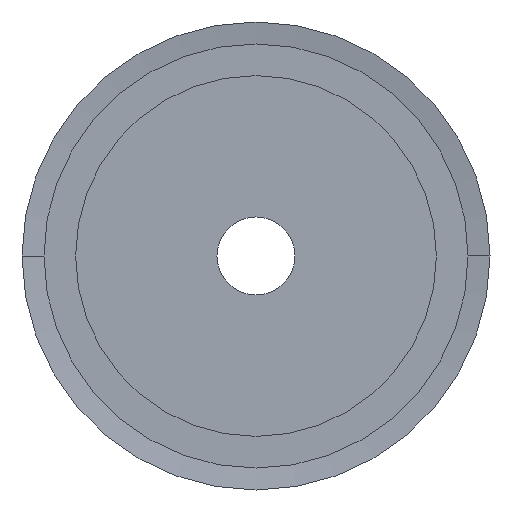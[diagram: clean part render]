
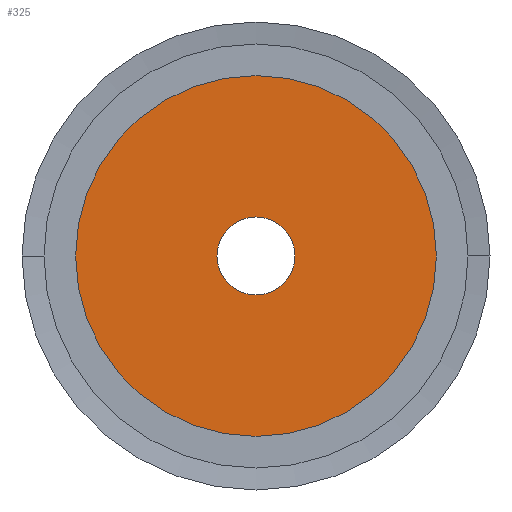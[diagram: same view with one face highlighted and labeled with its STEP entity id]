
A CAD part, left-side view. The second image highlights one B-rep face of the part: STEP entity #325.
In plain terms, the highlighted planar face has unit normal (-1, 0, 0).
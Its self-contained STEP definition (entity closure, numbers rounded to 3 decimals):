
#325 = ADVANCED_FACE( '', ( #833, #834 ), #835, .T. );
#833 = FACE_BOUND( '', #1342, .T. );
#834 = FACE_OUTER_BOUND( '', #1343, .T. );
#835 = PLANE( '', #1344 );
#1342 = EDGE_LOOP( '', ( #3539, #3540 ) );
#1343 = EDGE_LOOP( '', ( #3541, #3542 ) );
#1344 = AXIS2_PLACEMENT_3D( '', #3543, #3544, #3545 );
#3539 = ORIENTED_EDGE( '', *, *, #3585, .T. );
#3540 = ORIENTED_EDGE( '', *, *, #3581, .T. );
#3541 = ORIENTED_EDGE( '', *, *, #3549, .T. );
#3542 = ORIENTED_EDGE( '', *, *, #4269, .T. );
#3543 = CARTESIAN_POINT( '', ( 0., 9.25, 0. ) );
#3544 = DIRECTION( '', ( -1., 0., 0. ) );
#3545 = DIRECTION( '', ( 0., 1., 0. ) );
#3549 = EDGE_CURVE( '', #4271, #4275, #4277, .T. );
#3581 = EDGE_CURVE( '', #4335, #4332, #4336, .T. );
#3585 = EDGE_CURVE( '', #4332, #4335, #4341, .T. );
#4269 = EDGE_CURVE( '', #4275, #4271, #5473, .T. );
#4271 = VERTEX_POINT( '', #5475 );
#4275 = VERTEX_POINT( '', #5480 );
#4277 = CIRCLE( '', #5483, 18.5 );
#4332 = VERTEX_POINT( '', #5554 );
#4335 = VERTEX_POINT( '', #5558 );
#4336 = CIRCLE( '', #5559, 4. );
#4341 = CIRCLE( '', #5565, 4. );
#5473 = CIRCLE( '', #7089, 18.5 );
#5475 = CARTESIAN_POINT( '', ( 0., 18.5, 0. ) );
#5480 = CARTESIAN_POINT( '', ( 0., -18.5, 0. ) );
#5483 = AXIS2_PLACEMENT_3D( '', #7095, #7096, #7097 );
#5554 = CARTESIAN_POINT( '', ( 0., 4., 0. ) );
#5558 = CARTESIAN_POINT( '', ( 0., -4., 0. ) );
#5559 = AXIS2_PLACEMENT_3D( '', #7157, #7158, #7159 );
#5565 = AXIS2_PLACEMENT_3D( '', #7167, #7168, #7169 );
#7089 = AXIS2_PLACEMENT_3D( '', #8435, #8436, #8437 );
#7095 = CARTESIAN_POINT( '', ( 0., 0., 0. ) );
#7096 = DIRECTION( '', ( -1., 0., 0. ) );
#7097 = DIRECTION( '', ( 0., 1., 0. ) );
#7157 = CARTESIAN_POINT( '', ( 0., 0., 0. ) );
#7158 = DIRECTION( '', ( 1., 0., 0. ) );
#7159 = DIRECTION( '', ( 0., 1., 0. ) );
#7167 = CARTESIAN_POINT( '', ( 0., 0., 0. ) );
#7168 = DIRECTION( '', ( 1., 0., 0. ) );
#7169 = DIRECTION( '', ( 0., 1., 0. ) );
#8435 = CARTESIAN_POINT( '', ( 0., 0., 0. ) );
#8436 = DIRECTION( '', ( -1., 0., 0. ) );
#8437 = DIRECTION( '', ( 0., 1., 0. ) );
